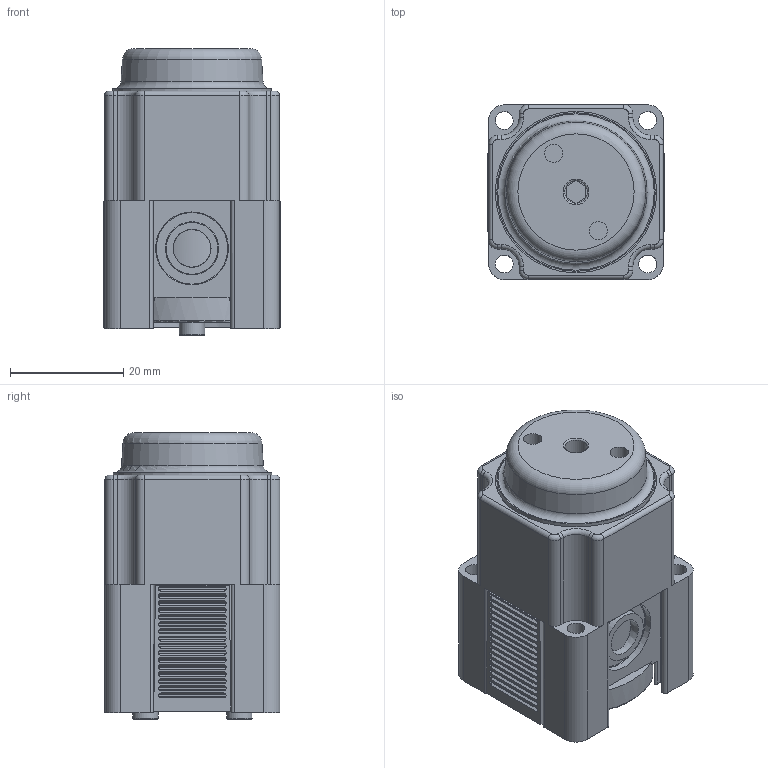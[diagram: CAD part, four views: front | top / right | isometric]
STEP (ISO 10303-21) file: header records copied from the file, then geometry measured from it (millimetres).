
FILE_DESCRIPTION(/* description */ (''),/* implementation_level */ '2;1');
FILE_NAME(/* name */ 'K:\Normteile INVENTOR\Air-Logic\Regulators\PR6000\PR 6___ Template Shrinkwrap.igs.ipt.stp',/* time_stamp */ '2020-05-27T10:53:41+02:00',/* author */ ('Paul'),/* organization */ (''),/* preprocessor_version */ 'ST-DEVELOPER v18',/* originating_system */ 'Autodesk Inventor 2020',/* authorisation */ '');
FILE_SCHEMA (('AUTOMOTIVE_DESIGN { 1 0 10303 214 3 1 1 }'));
Length unit declared in the file: inch
Products named in the file (1): PR 6___ Template Shrinkwrap.igs
Bounding box: 31.19 x 31.06 x 50.78 mm (x, y, z)
Volume: 37847.7 mm3; surface area: 12123.2 mm2
Topology: 1 solids, 1 shells, 608 faces, 1553 edges, 1017 vertices
Faces by surface type: plane 301, cylinder 255, torus 29, bspline 20, cone 3
Full cylindrical faces by diameter (mm): 1.194 x1, 2.032 x1, 3.124 x2, 3.175 x8, 3.226 x2, 4.013 x1, 4.521 x2, 8.382 x2, 9.169 x1, 12.903 x1, 25.781 x1, 28.047 x1, 28.575 x1
Entity records: 22122 total; most frequent: CARTESIAN_POINT 6253, DIRECTION 3372, ORIENTED_EDGE 3106, EDGE_CURVE 1553, AXIS2_PLACEMENT_3D 1350, VERTEX_POINT 1017, EDGE_LOOP 686, LINE 672
